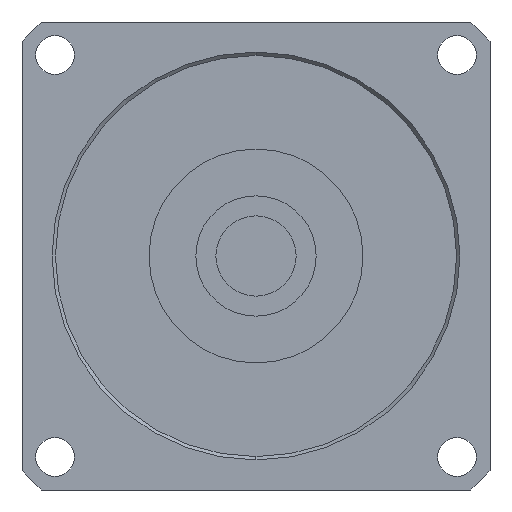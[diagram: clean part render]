
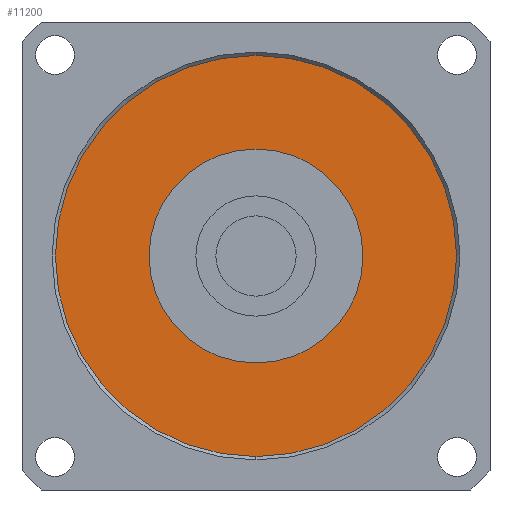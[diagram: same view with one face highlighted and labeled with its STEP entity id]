
A CAD part, left-side view. The second image highlights one B-rep face of the part: STEP entity #11200.
In plain terms, the highlighted planar face has unit normal (-1, 0, 0) as drawn and (0, 0, -1) by its records, which use the part's own axes.
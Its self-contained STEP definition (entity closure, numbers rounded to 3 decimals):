
#10640=CARTESIAN_POINT('',(0.,16.,-33.5));
#10650=VERTEX_POINT('',#10640);
#10680=CARTESIAN_POINT('',(0.,0.,
-33.5));
#10690=DIRECTION('',(0.,0.,1.));
#10700=DIRECTION('',(0.,-1.,0.));
#10710=AXIS2_PLACEMENT_3D('',#10680,#10690,#10700);
#10720=CIRCLE('',#10710,16.);
#10730=CARTESIAN_POINT('',(0.,-16.,-33.5));
#10740=VERTEX_POINT('',#10730);
#10750=EDGE_CURVE('',#10650,#10740,#10720,.T.);
#10950=CARTESIAN_POINT('',(0.,30.,-33.5));
#10960=DIRECTION('',(0.,0.,-1.));
#10970=DIRECTION('',(0.,1.,0.));
#10980=AXIS2_PLACEMENT_3D('',#10950,#10960,#10970);
#10990=PLANE('',#10980);
#11000=EDGE_CURVE('',#10740,#10650,#10720,.T.);
#11010=ORIENTED_EDGE('',*,*,#11000,.T.);
#11020=ORIENTED_EDGE('',*,*,#10750,.T.);
#11030=EDGE_LOOP('',(#11020,#11010));
#11040=FACE_BOUND('',#11030,.T.);
#11050=CARTESIAN_POINT('',(0.,0.,
-33.5));
#11060=DIRECTION('',(0.,0.,1.));
#11070=DIRECTION('',(0.,-1.,0.));
#11080=AXIS2_PLACEMENT_3D('',#11050,#11060,#11070);
#11090=CIRCLE('',#11080,30.);
#11100=CARTESIAN_POINT('',(0.,-30.,-33.5));
#11110=VERTEX_POINT('',#11100);
#11120=CARTESIAN_POINT('',(0.,30.,-33.5));
#11130=VERTEX_POINT('',#11120);
#11140=EDGE_CURVE('',#11110,#11130,#11090,.T.);
#11150=ORIENTED_EDGE('',*,*,#11140,.F.);
#11160=EDGE_CURVE('',#11130,#11110,#11090,.T.);
#11170=ORIENTED_EDGE('',*,*,#11160,.F.);
#11180=EDGE_LOOP('',(#11170,#11150));
#11190=FACE_OUTER_BOUND('',#11180,.T.);
#11200=ADVANCED_FACE('',(#11040,#11190),#10990,.T.);
